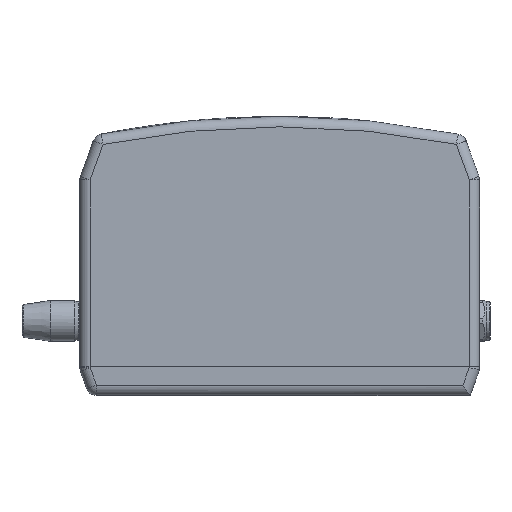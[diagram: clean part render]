
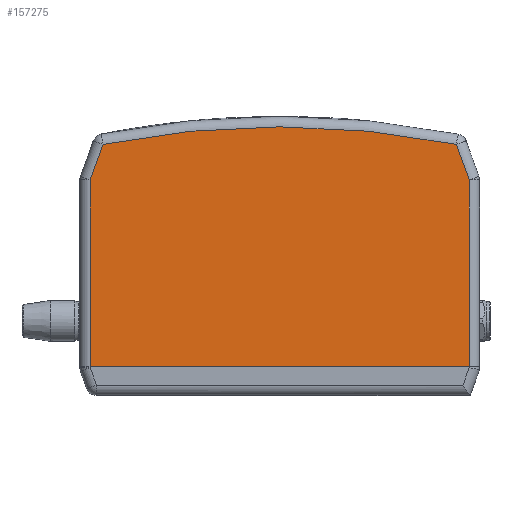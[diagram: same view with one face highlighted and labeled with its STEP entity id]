
A CAD part, left-side view. The second image highlights one B-rep face of the part: STEP entity #157275.
In plain terms, the highlighted planar face has unit normal (-1, 0, 0) as drawn and (0, 0, 1) by its records, which use the part's own axes.
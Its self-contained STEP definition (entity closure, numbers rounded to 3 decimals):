
#156795=CARTESIAN_POINT('',(146.0,128.589,125.0));
#156796=VERTEX_POINT('',#156795);
#156897=CARTESIAN_POINT('',(136.024,156.,125.0));
#156898=VERTEX_POINT('',#156897);
#157001=CARTESIAN_POINT('',(-136.024,156.,125.0));
#157002=VERTEX_POINT('',#157001);
#157035=CARTESIAN_POINT('',(-146.,128.589,125.0));
#157036=VERTEX_POINT('',#157035);
#157059=CARTESIAN_POINT('',(-146.,-15.0,125.));
#157060=VERTEX_POINT('',#157059);
#157068=CARTESIAN_POINT('',(-146.,-15.0,125.0));
#157069=DIRECTION('',(0.0,1.0,0.0));
#157070=VECTOR('',#157069,143.589);
#157071=LINE('',#157068,#157070);
#157072=EDGE_CURVE('',#157060,#157036,#157071,.T.);
#157085=CARTESIAN_POINT('',(-146.,128.589,125.0));
#157086=DIRECTION('',(0.342,0.94,0.0));
#157087=VECTOR('',#157086,29.169);
#157088=LINE('',#157085,#157087);
#157089=EDGE_CURVE('',#157036,#157002,#157088,.T.);
#157124=CARTESIAN_POINT('',(0.0,-522.5,125.0));
#157125=DIRECTION('',(0.0,0.0,-1.0));
#157126=DIRECTION('',(0.0,1.0,0.0));
#157127=AXIS2_PLACEMENT_3D('',#157124,#157125,#157126);
#157128=CIRCLE('',#157127,692.0);
#157129=EDGE_CURVE('',#157002,#156898,#157128,.T.);
#157142=CARTESIAN_POINT('',(136.024,156.,125.0));
#157143=DIRECTION('',(0.342,-0.94,0.0));
#157144=VECTOR('',#157143,29.169);
#157145=LINE('',#157142,#157144);
#157146=EDGE_CURVE('',#156898,#156796,#157145,.T.);
#157180=CARTESIAN_POINT('',(146.0,-15.0,125.));
#157181=VERTEX_POINT('',#157180);
#157191=CARTESIAN_POINT('',(146.0,128.589,125.0));
#157192=DIRECTION('',(0.0,-1.0,0.0));
#157193=VECTOR('',#157192,143.589);
#157194=LINE('',#157191,#157193);
#157195=EDGE_CURVE('',#156796,#157181,#157194,.T.);
#157257=CARTESIAN_POINT('',(-30.,0.0,125.0));
#157258=DIRECTION('',(0.0,0.0,1.0));
#157259=DIRECTION('',(1.0,0.0,0.0));
#157260=AXIS2_PLACEMENT_3D('',#157257,#157258,#157259);
#157261=PLANE('',#157260);
#157262=ORIENTED_EDGE('',*,*,#157195,.F.);
#157263=ORIENTED_EDGE('',*,*,#157146,.F.);
#157264=ORIENTED_EDGE('',*,*,#157129,.F.);
#157265=ORIENTED_EDGE('',*,*,#157089,.F.);
#157266=ORIENTED_EDGE('',*,*,#157072,.F.);
#157267=CARTESIAN_POINT('',(146.,-15.0,125.));
#157268=DIRECTION('',(-1.0,0.0,0.0));
#157269=VECTOR('',#157268,292.);
#157270=LINE('',#157267,#157269);
#157271=EDGE_CURVE('',#157181,#157060,#157270,.T.);
#157272=ORIENTED_EDGE('',*,*,#157271,.F.);
#157273=EDGE_LOOP('',(#157262,#157263,#157264,#157265,#157266,#157272));
#157274=FACE_OUTER_BOUND('',#157273,.T.);
#157275=ADVANCED_FACE('',(#157274),#157261,.T.);
